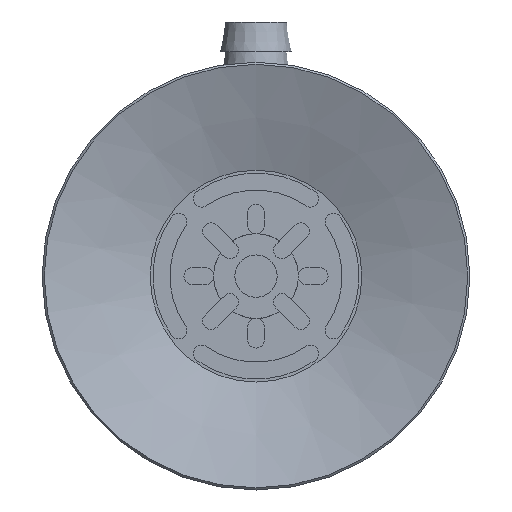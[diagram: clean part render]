
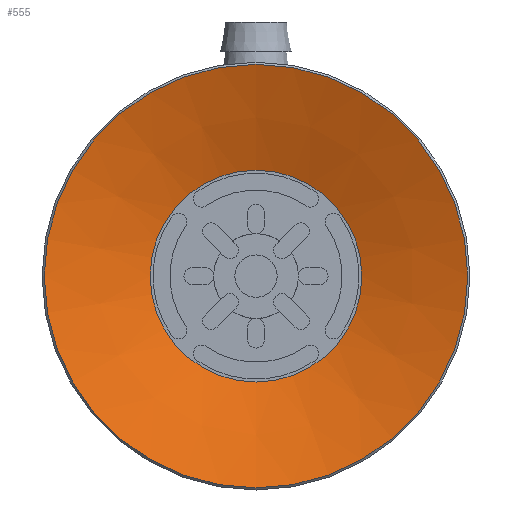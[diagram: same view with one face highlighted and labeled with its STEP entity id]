
A CAD part, front view. The second image highlights one B-rep face of the part: STEP entity #555.
In plain terms, the highlighted conical face has half-angle 70.201 degrees and reference radius 7.5 mm.
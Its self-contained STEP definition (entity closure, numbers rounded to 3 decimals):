
#555=ADVANCED_FACE('',(#892,#893),#894,.F.);
#892=FACE_BOUND('',#1364,.T.);
#893=FACE_OUTER_BOUND('',#1365,.T.);
#894=CONICAL_SURFACE('',#1366,7.5,1.225);
#1364=EDGE_LOOP('',(#2311));
#1365=EDGE_LOOP('',(#2312));
#1366=AXIS2_PLACEMENT_3D('',#2313,#2314,#2315);
#2311=ORIENTED_EDGE('',*,*,#3288,.F.);
#2312=ORIENTED_EDGE('',*,*,#3289,.T.);
#2313=CARTESIAN_POINT('',(0.0,0.0,2.7));
#2314=DIRECTION('',(0.0,0.,-1.0));
#2315=DIRECTION('',(0.0,1.0,0.));
#3288=EDGE_CURVE('',#3860,#3860,#3861,.T.);
#3289=EDGE_CURVE('',#3862,#3862,#3863,.T.);
#3860=VERTEX_POINT('',#5079);
#3861=CIRCLE('',#5080,7.5);
#3862=VERTEX_POINT('',#5081);
#3863=CIRCLE('',#5082,15.0);
#5079=CARTESIAN_POINT('',(0.0,7.5,2.7));
#5080=AXIS2_PLACEMENT_3D('',#5870,#5871,#5872);
#5081=CARTESIAN_POINT('',(0.0,15.0,0.));
#5082=AXIS2_PLACEMENT_3D('',#5873,#5874,#5875);
#5870=CARTESIAN_POINT('',(0.0,0.0,2.7));
#5871=DIRECTION('',(0.0,0.,-1.0));
#5872=DIRECTION('',(0.0,1.0,0.));
#5873=CARTESIAN_POINT('',(0.0,0.0,0.0));
#5874=DIRECTION('',(0.0,0.,-1.0));
#5875=DIRECTION('',(0.0,1.0,0.));
